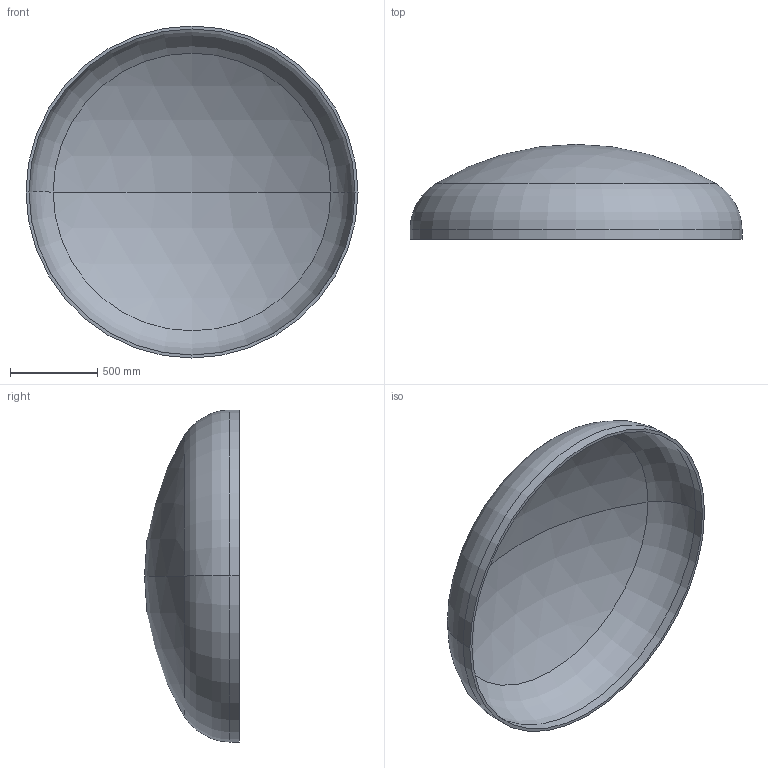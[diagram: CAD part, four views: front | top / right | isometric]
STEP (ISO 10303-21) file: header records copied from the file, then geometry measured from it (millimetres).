
FILE_DESCRIPTION (( 'STEP AP203' ), '1' );
FILE_NAME ('DIN 28013 Korbbogenform_-_Boden DIN 28013 - 1900 x 55 - I - s=17.step', '2016-07-01T12:57:37', ( '' ), ( '' ), 'SwSTEP 2.0', 'SolidWorks 2013', '' );
FILE_SCHEMA (( 'CONFIG_CONTROL_DESIGN' ));
Length unit declared in the file: millimetre
Products named in the file (1): DIN 28013 Korbbogenform_-_Boden DIN 28013 - 1900 x 55 - I - s=17
Bounding box: 1900 x 543.45 x 1900 mm (x, y, z)
Volume: 71387388.2 mm3; surface area: 8499683.9 mm2
Topology: 1 solids, 1 shells, 13 faces, 24 edges, 14 vertices
Faces by surface type: torus 4, cylinder 4, sphere 4, plane 1
Entity records: 407 total; most frequent: DIRECTION 72, CARTESIAN_POINT 52, ORIENTED_EDGE 48, AXIS2_PLACEMENT_3D 34, EDGE_CURVE 24, CIRCLE 20, VERTEX_POINT 14, EDGE_LOOP 14
